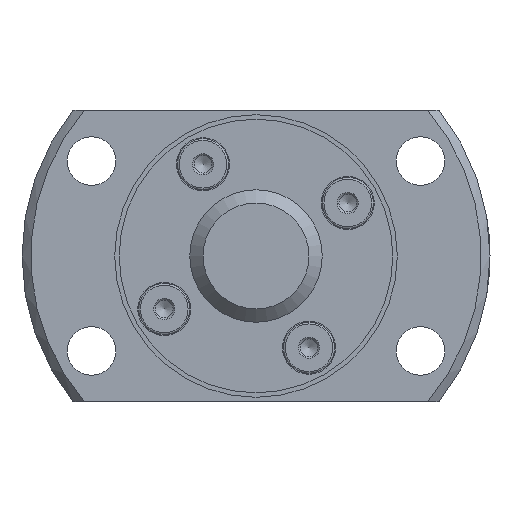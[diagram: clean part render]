
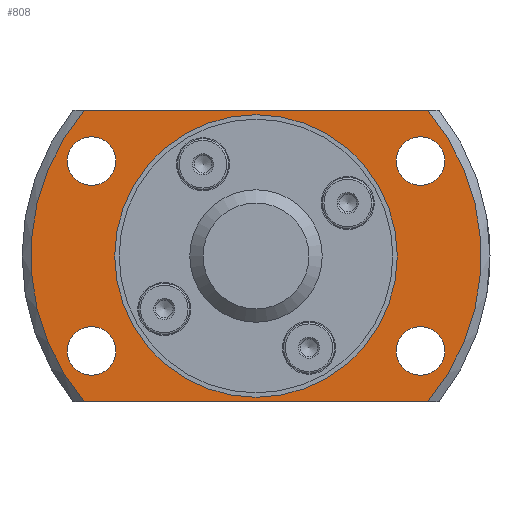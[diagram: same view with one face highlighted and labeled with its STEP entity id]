
A CAD part, left-side view. The second image highlights one B-rep face of the part: STEP entity #808.
In plain terms, the highlighted planar face has unit normal (-1, 0, 0).
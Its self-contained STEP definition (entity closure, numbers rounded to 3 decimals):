
#32=LINE('',#1447,#40);
#33=LINE('',#1448,#41);
#40=VECTOR('',#1127,1000.);
#41=VECTOR('',#1128,1000.);
#171=ORIENTED_EDGE('',*,*,#320,.T.);
#172=ORIENTED_EDGE('',*,*,#321,.F.);
#173=ORIENTED_EDGE('',*,*,#295,.F.);
#174=ORIENTED_EDGE('',*,*,#322,.F.);
#175=ORIENTED_EDGE('',*,*,#318,.F.);
#176=ORIENTED_EDGE('',*,*,#323,.T.);
#177=ORIENTED_EDGE('',*,*,#324,.T.);
#178=ORIENTED_EDGE('',*,*,#325,.T.);
#179=ORIENTED_EDGE('',*,*,#326,.T.);
#295=EDGE_CURVE('',#377,#376,#449,.T.);
#318=EDGE_CURVE('',#396,#397,#467,.T.);
#320=EDGE_CURVE('',#398,#398,#468,.T.);
#321=EDGE_CURVE('',#376,#396,#32,.T.);
#322=EDGE_CURVE('',#397,#377,#33,.T.);
#323=EDGE_CURVE('',#399,#399,#469,.T.);
#324=EDGE_CURVE('',#400,#400,#470,.T.);
#325=EDGE_CURVE('',#401,#401,#471,.T.);
#326=EDGE_CURVE('',#402,#402,#472,.T.);
#376=VERTEX_POINT('',#1370);
#377=VERTEX_POINT('',#1375);
#396=VERTEX_POINT('',#1437);
#397=VERTEX_POINT('',#1439);
#398=VERTEX_POINT('',#1446);
#399=VERTEX_POINT('',#1450);
#400=VERTEX_POINT('',#1452);
#401=VERTEX_POINT('',#1454);
#402=VERTEX_POINT('',#1456);
#449=CIRCLE('',#900,25.5);
#467=CIRCLE('',#929,25.5);
#468=CIRCLE('',#931,16.);
#469=CIRCLE('',#932,2.75);
#470=CIRCLE('',#933,2.75);
#471=CIRCLE('',#934,2.75);
#472=CIRCLE('',#935,2.75);
#548=EDGE_LOOP('',(#171));
#549=EDGE_LOOP('',(#172,#173,#174,#175));
#550=EDGE_LOOP('',(#176));
#551=EDGE_LOOP('',(#177));
#552=EDGE_LOOP('',(#178));
#553=EDGE_LOOP('',(#179));
#678=FACE_BOUND('',#548,.T.);
#679=FACE_BOUND('',#549,.T.);
#680=FACE_BOUND('',#550,.T.);
#681=FACE_BOUND('',#551,.T.);
#682=FACE_BOUND('',#552,.T.);
#683=FACE_BOUND('',#553,.T.);
#775=PLANE('',#930);
#808=ADVANCED_FACE('',(#678,#679,#680,#681,#682,#683),#775,.T.);
#900=AXIS2_PLACEMENT_3D('',#1376,#1061,#1062);
#929=AXIS2_PLACEMENT_3D('',#1438,#1121,#1122);
#930=AXIS2_PLACEMENT_3D('',#1444,#1123,#1124);
#931=AXIS2_PLACEMENT_3D('',#1445,#1125,#1126);
#932=AXIS2_PLACEMENT_3D('',#1449,#1129,#1130);
#933=AXIS2_PLACEMENT_3D('',#1451,#1131,#1132);
#934=AXIS2_PLACEMENT_3D('',#1453,#1133,#1134);
#935=AXIS2_PLACEMENT_3D('',#1455,#1135,#1136);
#1061=DIRECTION('',(1.,0.,0.));
#1062=DIRECTION('',(0.,0.,-1.));
#1121=DIRECTION('',(1.,0.,0.));
#1122=DIRECTION('',(0.,0.,-1.));
#1123=DIRECTION('',(-1.,0.,0.));
#1124=DIRECTION('',(0.,0.,1.));
#1125=DIRECTION('',(1.,0.,0.));
#1126=DIRECTION('',(0.,0.,-1.));
#1127=DIRECTION('',(0.,1.,0.));
#1128=DIRECTION('',(0.,-1.,0.));
#1129=DIRECTION('',(1.,0.,0.));
#1130=DIRECTION('',(0.,0.,-1.));
#1131=DIRECTION('',(1.,0.,0.));
#1132=DIRECTION('',(0.,0.,-1.));
#1133=DIRECTION('',(1.,0.,0.));
#1134=DIRECTION('',(0.,0.,-1.));
#1135=DIRECTION('',(1.,0.,0.));
#1136=DIRECTION('',(0.,0.,-1.));
#1370=CARTESIAN_POINT('',(7.,-19.442,-16.5));
#1375=CARTESIAN_POINT('',(7.,-19.442,16.5));
#1376=CARTESIAN_POINT('',(7.,0.,0.));
#1437=CARTESIAN_POINT('',(7.,19.442,-16.5));
#1438=CARTESIAN_POINT('',(7.,0.,0.));
#1439=CARTESIAN_POINT('',(7.,19.442,16.5));
#1444=CARTESIAN_POINT('',(7.,25.5,0.));
#1445=CARTESIAN_POINT('',(7.,0.,0.));
#1446=CARTESIAN_POINT('',(7.,0.,-16.));
#1447=CARTESIAN_POINT('',(7.,25.5,-16.5));
#1448=CARTESIAN_POINT('',(7.,25.5,16.5));
#1449=CARTESIAN_POINT('',(7.,-18.62,10.75));
#1450=CARTESIAN_POINT('',(7.,-18.62,8.));
#1451=CARTESIAN_POINT('',(7.,18.62,-10.75));
#1452=CARTESIAN_POINT('',(7.,18.62,-13.5));
#1453=CARTESIAN_POINT('',(7.,-18.62,-10.75));
#1454=CARTESIAN_POINT('',(7.,-18.62,-13.5));
#1455=CARTESIAN_POINT('',(7.,18.62,10.75));
#1456=CARTESIAN_POINT('',(7.,18.62,8.));
